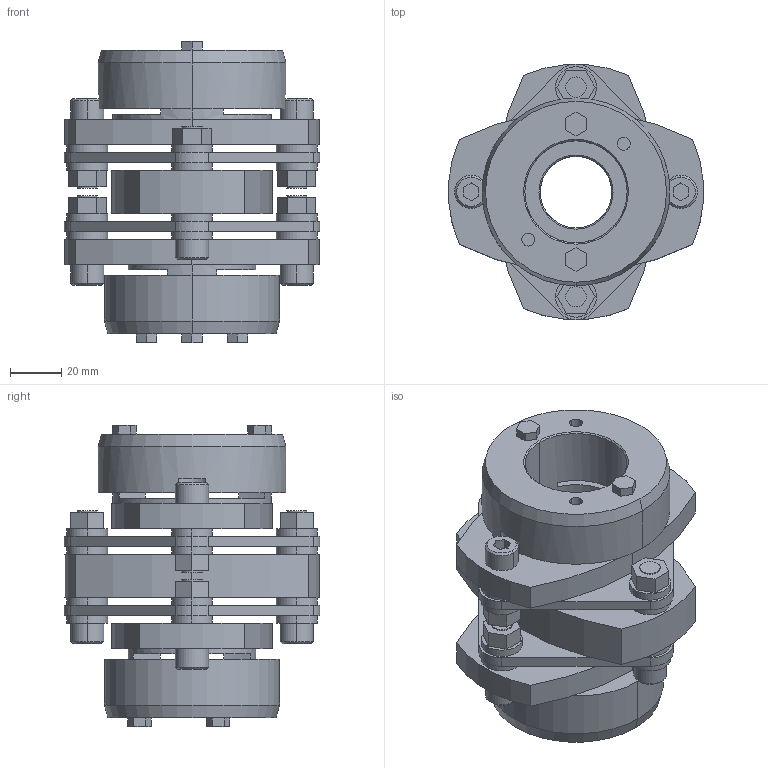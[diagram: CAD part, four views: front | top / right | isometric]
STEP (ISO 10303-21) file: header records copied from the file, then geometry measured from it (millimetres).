
FILE_DESCRIPTION((''),'2;1');
FILE_NAME('LCD-100T7-28×40.stp','2015-11-02T07:37:06',(''),(''),'AutoCAD STEP 2000i','AutoCAD 2000i',', , ');
FILE_SCHEMA(('CONFIG_CONTROL_DESIGN'));
Length unit declared in the file: millimetre
Products named in the file (11): LCD-100T7-28×38; 忣兜1; LC100T7-T028; LC100T7-T038; LC100T7-T035; LC100T7-T030; LC100T7-T025-1; LC100T7-T025; LC100T7-T022-1; LC100T7-T022; LCD100-ITA
Assembly tree (10 placements, depth 2):
  LCD-100T7-28×38
    忣兜1
    LC100T7-T028
    LC100T7-T038
    LC100T7-T035
    LC100T7-T030
    LC100T7-T025-1
    LC100T7-T025
    LC100T7-T022-1
    LC100T7-T022
    LCD100-ITA
Bounding box: 100 x 99.93 x 118 mm (x, y, z)
Volume: 358285.6 mm3; surface area: 91752 mm2
Topology: 1 solids, 1 shells, 317 faces, 774 edges, 508 vertices
Faces by surface type: plane 171, cylinder 122, cone 24
Entity records: 9651 total; most frequent: DIRECTION 1718, CARTESIAN_POINT 1610, ORIENTED_EDGE 1548, EDGE_CURVE 774, AXIS2_PLACEMENT_3D 616, VERTEX_POINT 508, VECTOR 486, LINE 486
